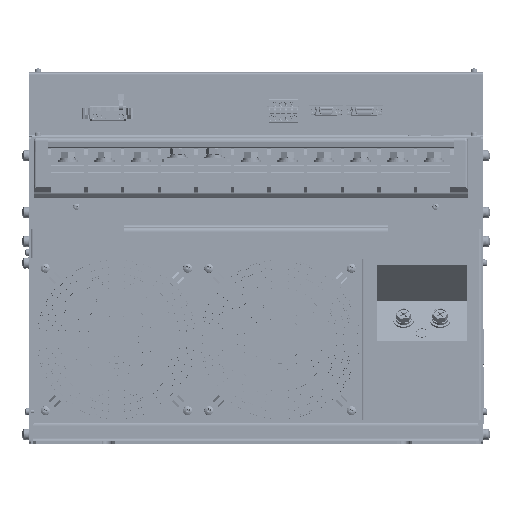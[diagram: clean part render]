
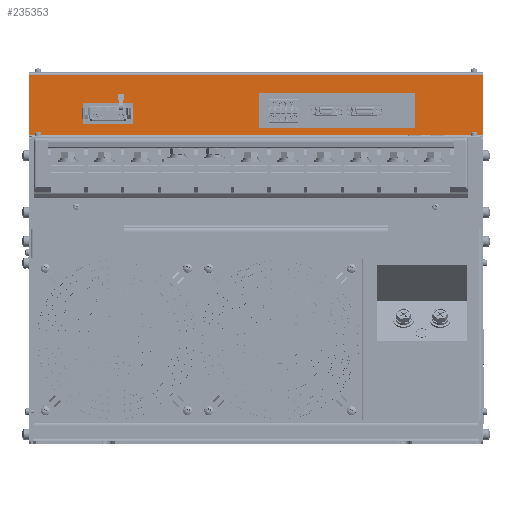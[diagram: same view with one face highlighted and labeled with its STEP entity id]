
A CAD part, front view. The second image highlights one B-rep face of the part: STEP entity #235353.
In plain terms, the highlighted planar face has unit normal (0, -1, 0).
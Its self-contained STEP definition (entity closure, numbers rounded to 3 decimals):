
#1423 = DIRECTION ( 'NONE',  ( 1., 0., 0. ) ) ;
#4265 = CARTESIAN_POINT ( 'NONE',  ( -151.6, 74.5, 277.6 ) ) ;
#5640 = CARTESIAN_POINT ( 'NONE',  ( -198.6, 74.5, 250. ) ) ;
#8797 = VECTOR ( 'NONE', #193097, 1000. ) ;
#10743 = ORIENTED_EDGE ( 'NONE', *, *, #542604, .F. ) ;
#16489 = VECTOR ( 'NONE', #262472, 1000. ) ;
#20025 = CARTESIAN_POINT ( 'NONE',  ( 2.3, 74.5, 286.2 ) ) ;
#21224 = CARTESIAN_POINT ( 'NONE',  ( 0., 74.5, 249. ) ) ;
#21789 = EDGE_CURVE ( 'NONE', #394672, #377641, #286121, .T. ) ;
#28918 = VERTEX_POINT ( 'NONE', #5640 ) ;
#32791 = LINE ( 'NONE', #157804, #292660 ) ;
#34142 = CARTESIAN_POINT ( 'NONE',  ( -151.6, 74.5, 277.6 ) ) ;
#40503 = VERTEX_POINT ( 'NONE', #448018 ) ;
#46309 = DIRECTION ( 'NONE',  ( -1., 0., 0. ) ) ;
#46459 = VECTOR ( 'NONE', #1423, 1000. ) ;
#48136 = VECTOR ( 'NONE', #244493, 1000. ) ;
#53709 = CARTESIAN_POINT ( 'NONE',  ( 2.3, 74.5, 286.2 ) ) ;
#53847 = EDGE_CURVE ( 'NONE', #40503, #28918, #32791, .T. ) ;
#57419 = VECTOR ( 'NONE', #517327, 1000. ) ;
#60770 = CARTESIAN_POINT ( 'NONE',  ( -198.6, 74.5, 302.4 ) ) ;
#67365 = EDGE_LOOP ( 'NONE', ( #227321, #110312, #423473, #134017 ) ) ;
#77297 = VECTOR ( 'NONE', #550253, 1000. ) ;
#77312 = LINE ( 'NONE', #4265, #145258 ) ;
#90852 = ORIENTED_EDGE ( 'NONE', *, *, #491885, .F. ) ;
#91554 = CARTESIAN_POINT ( 'NONE',  ( 2.3, 74.5, 286.2 ) ) ;
#94690 = EDGE_LOOP ( 'NONE', ( #238388, #369048, #324960, #90852 ) ) ;
#96681 = EDGE_CURVE ( 'NONE', #451536, #116520, #143042, .T. ) ;
#109894 = VERTEX_POINT ( 'NONE', #325986 ) ;
#110312 = ORIENTED_EDGE ( 'NONE', *, *, #557133, .F. ) ;
#111650 = CARTESIAN_POINT ( 'NONE',  ( 198.6, 74.5, 302.4 ) ) ;
#116520 = VERTEX_POINT ( 'NONE', #403957 ) ;
#130924 = CARTESIAN_POINT ( 'NONE',  ( 2.3, 74.5, 256.2 ) ) ;
#134017 = ORIENTED_EDGE ( 'NONE', *, *, #420620, .F. ) ;
#141932 = VERTEX_POINT ( 'NONE', #91554 ) ;
#143042 = LINE ( 'NONE', #311001, #320772 ) ;
#145258 = VECTOR ( 'NONE', #46309, 1000. ) ;
#146432 = LINE ( 'NONE', #239905, #16489 ) ;
#154953 = PLANE ( 'NONE',  #223732 ) ;
#157804 = CARTESIAN_POINT ( 'NONE',  ( 198.6, 74.5, 250. ) ) ;
#166451 = FACE_BOUND ( 'NONE', #94690, .T. ) ;
#167799 = EDGE_CURVE ( 'NONE', #28918, #394672, #146432, .T. ) ;
#172557 = CARTESIAN_POINT ( 'NONE',  ( -151.6, 74.5, 259.6 ) ) ;
#174843 = ORIENTED_EDGE ( 'NONE', *, *, #53847, .F. ) ;
#177197 = VERTEX_POINT ( 'NONE', #172557 ) ;
#187311 = FACE_OUTER_BOUND ( 'NONE', #315768, .T. ) ;
#193097 = DIRECTION ( 'NONE',  ( -1., 0., 0. ) ) ;
#218518 = VERTEX_POINT ( 'NONE', #348805 ) ;
#223732 = AXIS2_PLACEMENT_3D ( 'NONE', #21224, #412620, #323226 ) ;
#227321 = ORIENTED_EDGE ( 'NONE', *, *, #548767, .F. ) ;
#227490 = LINE ( 'NONE', #53709, #8797 ) ;
#228671 = DIRECTION ( 'NONE',  ( 0., 0., 1. ) ) ;
#235353 = ADVANCED_FACE ( 'NONE', ( #187311, #166451, #487597 ), #154953, .T. ) ;
#238388 = ORIENTED_EDGE ( 'NONE', *, *, #327114, .F. ) ;
#238868 = VERTEX_POINT ( 'NONE', #464319 ) ;
#239905 = CARTESIAN_POINT ( 'NONE',  ( -198.6, 74.5, 302.4 ) ) ;
#244493 = DIRECTION ( 'NONE',  ( 0., 0., 1. ) ) ;
#260925 = CARTESIAN_POINT ( 'NONE',  ( 2.3, 74.5, 256.2 ) ) ;
#261683 = DIRECTION ( 'NONE',  ( 1., 0., 0. ) ) ;
#262472 = DIRECTION ( 'NONE',  ( 0., 0., 1. ) ) ;
#268387 = LINE ( 'NONE', #20025, #288698 ) ;
#277535 = ORIENTED_EDGE ( 'NONE', *, *, #167799, .F. ) ;
#282362 = LINE ( 'NONE', #506292, #77297 ) ;
#282705 = ORIENTED_EDGE ( 'NONE', *, *, #21789, .F. ) ;
#286121 = LINE ( 'NONE', #385389, #46459 ) ;
#288698 = VECTOR ( 'NONE', #415192, 1000. ) ;
#292660 = VECTOR ( 'NONE', #331707, 1000. ) ;
#311001 = CARTESIAN_POINT ( 'NONE',  ( -107.6, 74.5, 277.6 ) ) ;
#315768 = EDGE_LOOP ( 'NONE', ( #277535, #174843, #10743, #282705 ) ) ;
#318710 = VECTOR ( 'NONE', #261683, 1000. ) ;
#320772 = VECTOR ( 'NONE', #228671, 1000. ) ;
#323226 = DIRECTION ( 'NONE',  ( -1., 0., 0. ) ) ;
#324960 = ORIENTED_EDGE ( 'NONE', *, *, #96681, .F. ) ;
#325986 = CARTESIAN_POINT ( 'NONE',  ( 139.3, 74.5, 286.2 ) ) ;
#327114 = EDGE_CURVE ( 'NONE', #238868, #177197, #549598, .T. ) ;
#331707 = DIRECTION ( 'NONE',  ( -1., 0., 0. ) ) ;
#332354 = LINE ( 'NONE', #484978, #318710 ) ;
#348719 = DIRECTION ( 'NONE',  ( 1., 0., 0. ) ) ;
#348805 = CARTESIAN_POINT ( 'NONE',  ( 139.3, 74.5, 256.2 ) ) ;
#369048 = ORIENTED_EDGE ( 'NONE', *, *, #495899, .F. ) ;
#377641 = VERTEX_POINT ( 'NONE', #111650 ) ;
#385389 = CARTESIAN_POINT ( 'NONE',  ( 198.6, 74.5, 302.4 ) ) ;
#394672 = VERTEX_POINT ( 'NONE', #60770 ) ;
#395214 = CARTESIAN_POINT ( 'NONE',  ( -107.6, 74.5, 259.6 ) ) ;
#403957 = CARTESIAN_POINT ( 'NONE',  ( -107.6, 74.5, 277.6 ) ) ;
#412620 = DIRECTION ( 'NONE',  ( 0., -1., 0. ) ) ;
#415192 = DIRECTION ( 'NONE',  ( 0., 0., -1. ) ) ;
#418157 = CARTESIAN_POINT ( 'NONE',  ( 139.3, 74.5, 286.2 ) ) ;
#420620 = EDGE_CURVE ( 'NONE', #548193, #218518, #520160, .T. ) ;
#423473 = ORIENTED_EDGE ( 'NONE', *, *, #524492, .F. ) ;
#448018 = CARTESIAN_POINT ( 'NONE',  ( 198.6, 74.5, 250. ) ) ;
#451536 = VERTEX_POINT ( 'NONE', #395214 ) ;
#464319 = CARTESIAN_POINT ( 'NONE',  ( -151.6, 74.5, 277.6 ) ) ;
#484978 = CARTESIAN_POINT ( 'NONE',  ( -151.6, 74.5, 259.6 ) ) ;
#487597 = FACE_BOUND ( 'NONE', #67365, .T. ) ;
#491885 = EDGE_CURVE ( 'NONE', #177197, #451536, #332354, .T. ) ;
#495899 = EDGE_CURVE ( 'NONE', #116520, #238868, #77312, .T. ) ;
#506292 = CARTESIAN_POINT ( 'NONE',  ( 198.6, 74.5, 249. ) ) ;
#506394 = LINE ( 'NONE', #418157, #48136 ) ;
#513582 = VECTOR ( 'NONE', #348719, 1000. ) ;
#517327 = DIRECTION ( 'NONE',  ( 0., 0., -1. ) ) ;
#520160 = LINE ( 'NONE', #130924, #513582 ) ;
#524492 = EDGE_CURVE ( 'NONE', #218518, #109894, #506394, .T. ) ;
#542604 = EDGE_CURVE ( 'NONE', #377641, #40503, #282362, .T. ) ;
#548193 = VERTEX_POINT ( 'NONE', #260925 ) ;
#548767 = EDGE_CURVE ( 'NONE', #141932, #548193, #268387, .T. ) ;
#549598 = LINE ( 'NONE', #34142, #57419 ) ;
#550253 = DIRECTION ( 'NONE',  ( 0., 0., -1. ) ) ;
#557133 = EDGE_CURVE ( 'NONE', #109894, #141932, #227490, .T. ) ;
